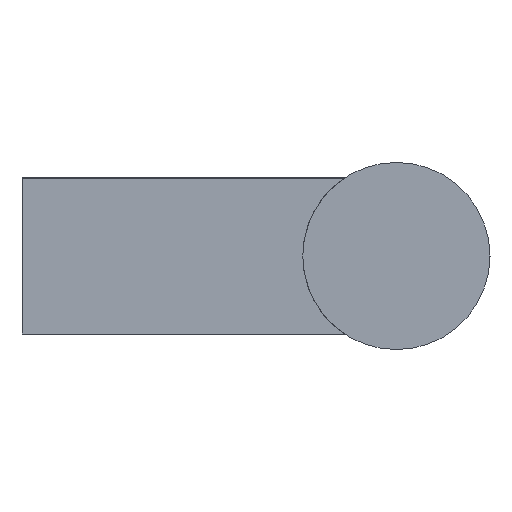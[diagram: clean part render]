
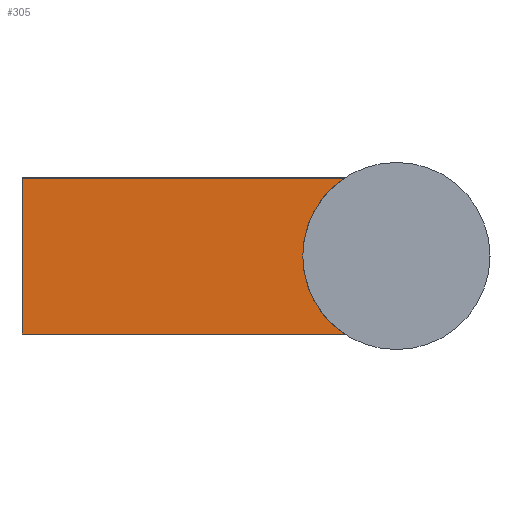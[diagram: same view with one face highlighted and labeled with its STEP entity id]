
A CAD part, left-side view. The second image highlights one B-rep face of the part: STEP entity #305.
In plain terms, the highlighted planar face has unit normal (-1, 0, 0).
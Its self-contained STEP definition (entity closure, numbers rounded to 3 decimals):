
#139 = VERTEX_POINT( '', #359 );
#147 = VERTEX_POINT( '', #367 );
#157 = EDGE_CURVE( '', #315, #139, #380, .T. );
#185 = EDGE_CURVE( '', #195, #147, #408, .T. );
#195 = VERTEX_POINT( '', #418 );
#227 = VERTEX_POINT( '', #453 );
#233 = EDGE_CURVE( '', #227, #139, #461, .T. );
#263 = EDGE_CURVE( '', #315, #195, #494, .T. );
#279 = EDGE_CURVE( '', #147, #227, #512, .T. );
#305 = ADVANCED_FACE( '', ( #543 ), #544, .T. );
#315 = VERTEX_POINT( '', #555 );
#359 = CARTESIAN_POINT( '', ( -11.999, -20.683, -5. ) );
#367 = CARTESIAN_POINT( '', ( -11.999, -20.683, 5. ) );
#380 = LINE( '', #616, #617 );
#408 = LINE( '', #660, #661 );
#418 = CARTESIAN_POINT( '', ( -11.999, 0., 5. ) );
#453 = CARTESIAN_POINT( '', ( -11.999, -18., 0. ) );
#461 = CIRCLE( '', #736, 6. );
#494 = LINE( '', #774, #775 );
#512 = CIRCLE( '', #804, 6. );
#543 = FACE_OUTER_BOUND( '', #840, .T. );
#544 = PLANE( '', #841 );
#555 = CARTESIAN_POINT( '', ( -11.999, 0., -5. ) );
#616 = CARTESIAN_POINT( '', ( -11.999, 0., -5. ) );
#617 = VECTOR( '', #921, 1. );
#660 = CARTESIAN_POINT( '', ( -11.999, 0., 5. ) );
#661 = VECTOR( '', #934, 1. );
#736 = AXIS2_PLACEMENT_3D( '', #998, #999, #1000 );
#774 = CARTESIAN_POINT( '', ( -11.999, 0., -5. ) );
#775 = VECTOR( '', #1037, 1. );
#804 = AXIS2_PLACEMENT_3D( '', #1053, #1054, #1055 );
#840 = EDGE_LOOP( '', ( #1106, #1107, #1108, #1109, #1110 ) );
#841 = AXIS2_PLACEMENT_3D( '', #1111, #1112, #1113 );
#921 = DIRECTION( '', ( 0., -1., 0. ) );
#934 = DIRECTION( '', ( 0., -1., 0. ) );
#998 = CARTESIAN_POINT( '', ( -11.999, -24., 0. ) );
#999 = DIRECTION( '', ( -1., 0., 0. ) );
#1000 = DIRECTION( '', ( 0., -1., 0. ) );
#1037 = DIRECTION( '', ( 0., 0., 1. ) );
#1053 = CARTESIAN_POINT( '', ( -11.999, -24., 0. ) );
#1054 = DIRECTION( '', ( -1., 0., 0. ) );
#1055 = DIRECTION( '', ( 0., -1., 0. ) );
#1106 = ORIENTED_EDGE( '', *, *, #279, .F. );
#1107 = ORIENTED_EDGE( '', *, *, #185, .F. );
#1108 = ORIENTED_EDGE( '', *, *, #263, .F. );
#1109 = ORIENTED_EDGE( '', *, *, #157, .T. );
#1110 = ORIENTED_EDGE( '', *, *, #233, .F. );
#1111 = CARTESIAN_POINT( '', ( -11.999, 0., -5. ) );
#1112 = DIRECTION( '', ( -1., 0., 0. ) );
#1113 = DIRECTION( '', ( 0., 0., -1. ) );
